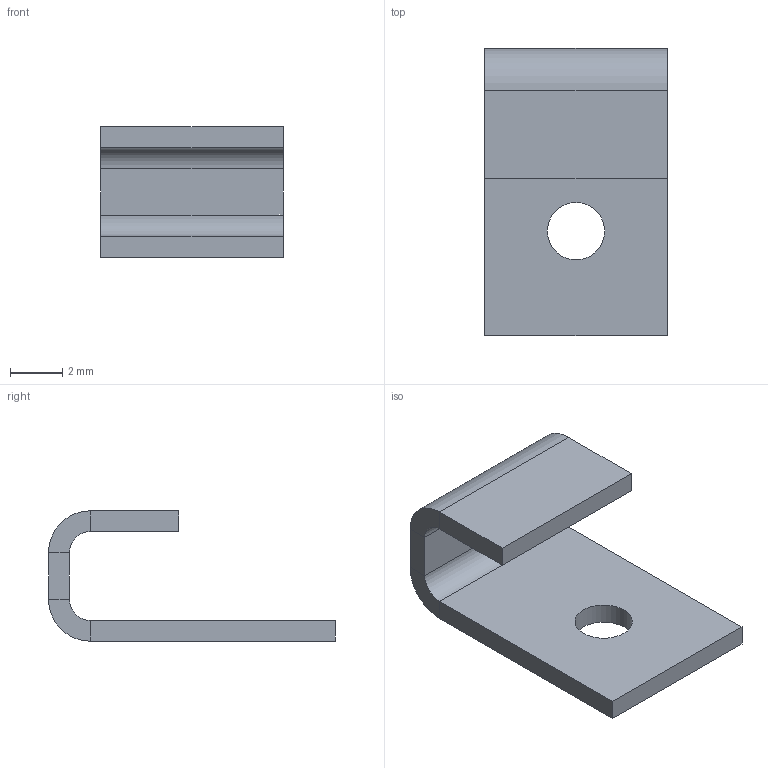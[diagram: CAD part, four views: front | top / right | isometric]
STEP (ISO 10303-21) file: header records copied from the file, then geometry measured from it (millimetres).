
FILE_DESCRIPTION(/* description */ (''),/* implementation_level */ '2;1');
FILE_NAME(/* name */ 'PDB-07-702_Cable_Retention_Clamp_R01.step',/* time_stamp */ '2026-11-24T01:50:40+05:00',/* author */ (''),/* organization */ (''),/* preprocessor_version */ 'ST-DEVELOPER v20.2',/* originating_system */ 'Autodesk Translation Framework v15.17.0.0',/* authorisation */ '');
FILE_SCHEMA (('AUTOMOTIVE_DESIGN { 1 0 10303 214 3 1 1 }'));
Length unit declared in the file: centimetre
Products named in the file (1): 2026-11-24-01-50-40-652
Bounding box: 7 x 11 x 5 mm (x, y, z)
Volume: 99.8 mm3; surface area: 295.7 mm2
Topology: 1 solids, 1 shells, 23 faces, 47 edges, 26 vertices
Faces by surface type: plane 18, cylinder 5
Full cylindrical faces by diameter (mm): 2.2 x1
Entity records: 620 total; most frequent: DIRECTION 105, CARTESIAN_POINT 97, ORIENTED_EDGE 94, EDGE_CURVE 47, LINE 37, VECTOR 37, AXIS2_PLACEMENT_3D 34, VERTEX_POINT 26
